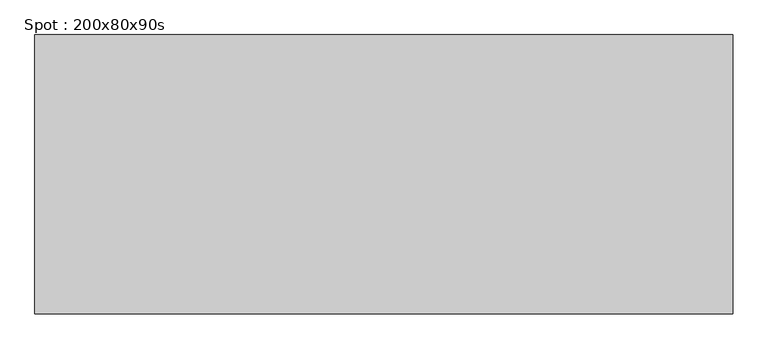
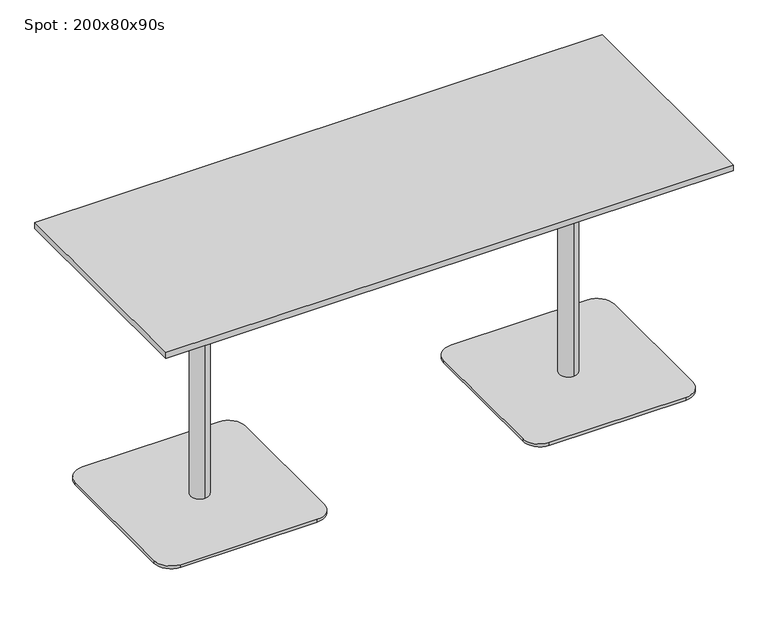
"""IFC4 building model written with IfcOpenShell, lengths in millimetres: furniture geometry, Spot : 200x80x90s."""

from ifc_helpers import new_model, si_unit, point, frame, frame_2d, origin, origin_with_axes, place, context, project, spatial, polyline, circle_curve, trimmed, segment, composite_curve, outline, extrude, source, transform, mapped, element, save
from ifc_brep_helpers import plane_surface, cylinder_surface, revolved_surface, advanced_brep


def spot_200x80x90s_f05396a9(model_context):
    return source(origin(), model_context, "Body", "SolidModel", [
        extrude(outline(polyline([(1000.0, 400.0), (1000.0, -400.0), (-1000.0, -400.0), (-1000.0, 400.0), (1000.0, 400.0)])), frame((0.0, 0.0, 878.0), z_axis=(0.0, 0.0, 1.0), x_axis=(1.0, 0.0, 0.0)), (0.0, 0.0, 1.0), 22.0),
        extrude(outline(composite_curve([segment(trimmed(circle_curve(frame_2d((-410.0, 240.0)), 60.0), [point((-410.0, 300.0))], [point((-350.0, 240.0))], False, "CARTESIAN"), True, "CONTINUOUS"), segment(polyline([(-350.0, 240.0), (-350.0, -240.0)]), True, "CONTINUOUS"), segment(trimmed(circle_curve(frame_2d((-410.0, -240.0)), 60.0), [point((-350.0, -240.0))], [point((-410.0, -300.0))], False, "CARTESIAN"), True, "CONTINUOUS"), segment(polyline([(-410.0, -300.0), (-890.0, -300.0)]), True, "CONTINUOUS"), segment(trimmed(circle_curve(frame_2d((-890.0, -240.0)), 60.0), [point((-890.0, -300.0))], [point((-950.0, -240.0))], False, "CARTESIAN"), True, "CONTINUOUS"), segment(polyline([(-950.0, -240.0), (-950.0, 240.0)]), True, "CONTINUOUS"), segment(trimmed(circle_curve(frame_2d((-890.0, 240.0)), 60.0), [point((-950.0, 240.0))], [point((-890.0, 300.0))], False, "CARTESIAN"), True, "CONTINUOUS"), segment(polyline([(-890.0, 300.0), (-410.0, 300.0)]), True, "CONTINUOUS")], self_intersect=False)), origin_with_axes(), (0.0, 0.0, 1.0), 10.0),
        advanced_brep(
        [(-650.0, 32.0, 10.0), (-650.0, -32.0, 10.0), (-650.0, -32.0, 847.406916), (-650.0, 32.0, 847.406916), (-650.0, 0.0, 10.0), (-650.0, 150.0, 878.0), (-650.0, -150.0, 878.0), (-650.0, 0.0, 878.0), (-650.0, 150.0, 866.7213673), (-650.0, -150.0, 866.7213673)],
        [
            (0, 1, circle_curve(frame((-650.0, 0.0, 10.0), z_axis=(0.0, 0.0, 1.0), x_axis=(0.0, -1.0, 0.0)), 32.0)),
            (1, 2),
            (2, 3, circle_curve(frame((-650.0, 0.0, 847.406916), z_axis=(0.0, 0.0, -1.0), x_axis=(0.0, -1.0, 0.0)), 32.0)),
            (3, 0),
            (1, 0, circle_curve(frame((-650.0, 0.0, 10.0), z_axis=(0.0, 0.0, 1.0), x_axis=(0.0, -1.0, 0.0)), 32.0)),
            (3, 2, circle_curve(frame((-650.0, 0.0, 847.406916), z_axis=(0.0, 0.0, -1.0), x_axis=(0.0, -1.0, 0.0)), 32.0)),
            (4, 1),
            (0, 4),
            (5, 6, circle_curve(frame((-650.0, 0.0, 878.0), z_axis=(0.0, 0.0, 1.0), x_axis=(0.0, -1.0, 0.0)), 150.0)),
            (6, 7),
            (7, 5),
            (6, 5, circle_curve(frame((-650.0, 0.0, 878.0), z_axis=(0.0, 0.0, 1.0), x_axis=(0.0, -1.0, 0.0)), 150.0)),
            (8, 9, circle_curve(frame((-650.0, 0.0, 866.7213673), z_axis=(0.0, 0.0, 1.0), x_axis=(0.0, -1.0, 0.0)), 150.0)),
            (9, 6),
            (5, 8),
            (9, 8, circle_curve(frame((-650.0, 0.0, 866.7213673), z_axis=(0.0, 0.0, 1.0), x_axis=(0.0, -1.0, 0.0)), 150.0)),
            (2, 9),
            (8, 3),
        ],
        [
            cylinder_surface(frame((-650.0, 0.0, 1240.0), z_axis=(0.0, 0.0, -1.0), x_axis=(0.0, -1.0, 0.0)), 32.0),
            plane_surface(frame((-650.0, 0.0, 10.0), z_axis=(0.0, 0.0, -1.0), x_axis=(0.0, -1.0, 0.0))),
            plane_surface(frame((-650.0, 0.0, 878.0), z_axis=(0.0, 0.0, 1.0), x_axis=(0.0, -1.0, 0.0))),
            cylinder_surface(frame((-650.0, 0.0, 1240.0), z_axis=(0.0, 0.0, -1.0), x_axis=(0.0, -1.0, 0.0)), 150.0),
            revolved_surface(polyline([(-650.0, -150.0, 866.7213673), (-650.0, -32.0, 847.406916)]), (-650.0, 0.0, 1240.0), (0.0, 0.0, -1.0)),
        ],
        [
            (0, [[1, 2, 3, 4]]),
            (0, [[5, -4, 6, -2]]),
            (1, [[7, -1, 8]]),
            (1, [[-8, -5, -7]]),
            (2, [[9, 10, 11]]),
            (2, [[12, -11, -10]]),
            (3, [[13, 14, -9, 15]]),
            (3, [[16, -15, -12, -14]]),
            (4, [[-3, 17, -13, 18]]),
            (4, [[-6, -18, -16, -17]]),
        ],
    ),
        extrude(outline(polyline([(-650.0, 0.0), (-670.0, 0.0), (-670.0, 20.0), (-650.0, 20.0), (-650.0, 0.0)])), origin_with_axes(), (0.0, 0.0, 1.0), 10.0),
        extrude(outline(composite_curve([segment(trimmed(circle_curve(frame_2d((890.0, 240.0)), 60.0), [point((890.0, 300.0))], [point((950.0, 240.0))], False, "CARTESIAN"), True, "CONTINUOUS"), segment(polyline([(950.0, 240.0), (950.0, -240.0)]), True, "CONTINUOUS"), segment(trimmed(circle_curve(frame_2d((890.0, -240.0)), 60.0), [point((950.0, -240.0))], [point((890.0, -300.0))], False, "CARTESIAN"), True, "CONTINUOUS"), segment(polyline([(890.0, -300.0), (410.0, -300.0)]), True, "CONTINUOUS"), segment(trimmed(circle_curve(frame_2d((410.0, -240.0)), 60.0), [point((410.0, -300.0))], [point((350.0, -240.0))], False, "CARTESIAN"), True, "CONTINUOUS"), segment(polyline([(350.0, -240.0), (350.0, 240.0)]), True, "CONTINUOUS"), segment(trimmed(circle_curve(frame_2d((410.0, 240.0)), 60.0), [point((350.0, 240.0))], [point((410.0, 300.0))], False, "CARTESIAN"), True, "CONTINUOUS"), segment(polyline([(410.0, 300.0), (890.0, 300.0)]), True, "CONTINUOUS")], self_intersect=False)), origin_with_axes(), (0.0, 0.0, 1.0), 10.0),
        advanced_brep(
        [(650.0, 32.0, 10.0), (650.0, -32.0, 10.0), (650.0, -32.0, 847.406916), (650.0, 32.0, 847.406916), (650.0, 0.0, 10.0), (650.0, 150.0, 878.0), (650.0, -150.0, 878.0), (650.0, 0.0, 878.0), (650.0, 150.0, 866.7213673), (650.0, -150.0, 866.7213673)],
        [
            (0, 1, circle_curve(frame((650.0, 0.0, 10.0), z_axis=(0.0, 0.0, 1.0), x_axis=(0.0, -1.0, 0.0)), 32.0)),
            (1, 2),
            (2, 3, circle_curve(frame((650.0, 0.0, 847.406916), z_axis=(0.0, 0.0, -1.0), x_axis=(0.0, -1.0, 0.0)), 32.0)),
            (3, 0),
            (1, 0, circle_curve(frame((650.0, 0.0, 10.0), z_axis=(0.0, 0.0, 1.0), x_axis=(0.0, -1.0, 0.0)), 32.0)),
            (3, 2, circle_curve(frame((650.0, 0.0, 847.406916), z_axis=(0.0, 0.0, -1.0), x_axis=(0.0, -1.0, 0.0)), 32.0)),
            (4, 1),
            (0, 4),
            (5, 6, circle_curve(frame((650.0, 0.0, 878.0), z_axis=(0.0, 0.0, 1.0), x_axis=(0.0, -1.0, 0.0)), 150.0)),
            (6, 7),
            (7, 5),
            (6, 5, circle_curve(frame((650.0, 0.0, 878.0), z_axis=(0.0, 0.0, 1.0), x_axis=(0.0, -1.0, 0.0)), 150.0)),
            (8, 9, circle_curve(frame((650.0, 0.0, 866.7213673), z_axis=(0.0, 0.0, 1.0), x_axis=(0.0, -1.0, 0.0)), 150.0)),
            (9, 6),
            (5, 8),
            (9, 8, circle_curve(frame((650.0, 0.0, 866.7213673), z_axis=(0.0, 0.0, 1.0), x_axis=(0.0, -1.0, 0.0)), 150.0)),
            (2, 9),
            (8, 3),
        ],
        [
            cylinder_surface(frame((650.0, 0.0, 1240.0), z_axis=(0.0, 0.0, -1.0), x_axis=(0.0, -1.0, 0.0)), 32.0),
            plane_surface(frame((650.0, 0.0, 10.0), z_axis=(0.0, 0.0, -1.0), x_axis=(0.0, -1.0, 0.0))),
            plane_surface(frame((650.0, 0.0, 878.0), z_axis=(0.0, 0.0, 1.0), x_axis=(0.0, -1.0, 0.0))),
            cylinder_surface(frame((650.0, 0.0, 1240.0), z_axis=(0.0, 0.0, -1.0), x_axis=(0.0, -1.0, 0.0)), 150.0),
            revolved_surface(polyline([(650.0, -150.0, 866.7213673), (650.0, -32.0, 847.406916)]), (650.0, 0.0, 1240.0), (0.0, 0.0, -1.0)),
        ],
        [
            (0, [[1, 2, 3, 4]]),
            (0, [[5, -4, 6, -2]]),
            (1, [[7, -1, 8]]),
            (1, [[-8, -5, -7]]),
            (2, [[9, 10, 11]]),
            (2, [[12, -11, -10]]),
            (3, [[13, 14, -9, 15]]),
            (3, [[16, -15, -12, -14]]),
            (4, [[-3, 17, -13, 18]]),
            (4, [[-6, -18, -16, -17]]),
        ],
    ),
        extrude(outline(polyline([(650.0, 0.0), (630.0, 0.0), (630.0, 20.0), (650.0, 20.0), (650.0, 0.0)])), origin_with_axes(), (0.0, 0.0, 1.0), 10.0),
    ])


if __name__ == "__main__":
    model = new_model("IFC4")
    model_context = context("Model", 3, world=origin())
    ifc_project = project(units=[si_unit("LENGTHUNIT", "METRE", prefix="MILLI")], contexts=[model_context])
    site = spatial("IfcSite", under=ifc_project)
    building = spatial("IfcBuilding", under=site)
    placement = place(None, origin())
    spot_200x80x90s_shape = spot_200x80x90s_f05396a9(model_context)
    element("IfcFurniture", 1, ObjectType="Spot : 200x80x90s", at=placement, inside=building, context=model_context, shape_type="MappedRepresentation", body=[
        mapped(spot_200x80x90s_shape, transform((0.0, 0.0, 0.0), x_axis=(1.0, 0.0, 0.0), y_axis=(0.0, 1.0, 0.0), z_axis=(0.0, 0.0, 1.0))),
    ])
    save(model, "model.ifc")
